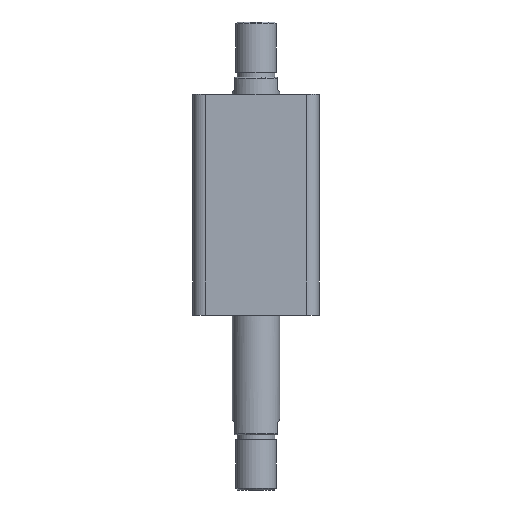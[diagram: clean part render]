
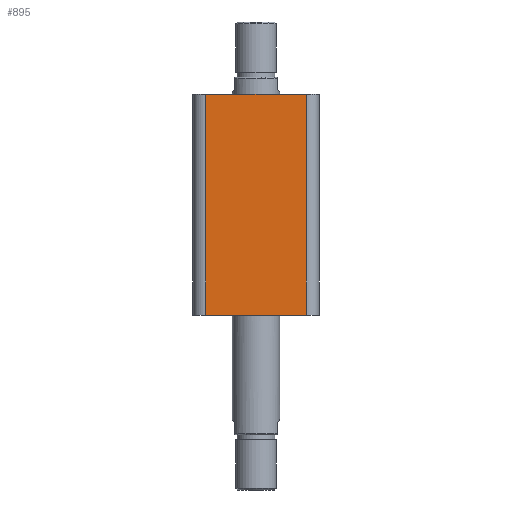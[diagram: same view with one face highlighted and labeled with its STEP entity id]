
A CAD part, front view. The second image highlights one B-rep face of the part: STEP entity #895.
In plain terms, the highlighted planar face has unit normal (0, -1, 0).
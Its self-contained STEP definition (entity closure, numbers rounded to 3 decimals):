
#62 = VERTEX_POINT ( 'NONE', #90 ) ;
#90 = CARTESIAN_POINT ( 'NONE',  ( 32., -40., 0. ) ) ;
#787 = EDGE_LOOP ( 'NONE', ( #2536, #2535, #2534, #2533 ) ) ;
#828 = FACE_OUTER_BOUND ( 'NONE', #787, .T. ) ;
#895 = ADVANCED_FACE ( 'NONE', ( #828 ), #1665, .F. ) ;
#1082 = CARTESIAN_POINT ( 'NONE',  ( -40., -40., 0. ) ) ;
#1092 = CARTESIAN_POINT ( 'NONE',  ( -40., -40., 140. ) ) ;
#1093 = DIRECTION ( 'NONE',  ( 1., 0., 0. ) ) ;
#1094 = CARTESIAN_POINT ( 'NONE',  ( -32., -40., 140. ) ) ;
#1095 = DIRECTION ( 'NONE',  ( 0., 0., -1. ) ) ;
#1096 = DIRECTION ( 'NONE',  ( 1., 0., 0. ) ) ;
#1097 = CARTESIAN_POINT ( 'NONE',  ( 32., -40., 140. ) ) ;
#1098 = DIRECTION ( 'NONE',  ( 0., 0., 1. ) ) ;
#1115 = CARTESIAN_POINT ( 'NONE',  ( -32., -40., 140. ) ) ;
#1128 = CARTESIAN_POINT ( 'NONE',  ( -32., -40., 0. ) ) ;
#1151 = CARTESIAN_POINT ( 'NONE',  ( 32., -40., 140. ) ) ;
#1292 = AXIS2_PLACEMENT_3D ( 'NONE', #1667, #1668, #1669 ) ;
#1665 = PLANE ( 'NONE',  #1292 ) ;
#1667 = CARTESIAN_POINT ( 'NONE',  ( -40., -40., 140. ) ) ;
#1668 = DIRECTION ( 'NONE',  ( 0., 1., 0. ) ) ;
#1669 = DIRECTION ( 'NONE',  ( 0., 0., 1. ) ) ;
#2416 = EDGE_CURVE ( 'NONE', #2859, #3443, #3321, .T. ) ;
#2417 = EDGE_CURVE ( 'NONE', #2859, #2865, #3323, .T. ) ;
#2418 = EDGE_CURVE ( 'NONE', #2865, #62, #3315, .T. ) ;
#2419 = EDGE_CURVE ( 'NONE', #62, #3443, #3327, .T. ) ;
#2533 = ORIENTED_EDGE ( 'NONE', *, *, #2419, .T. ) ;
#2534 = ORIENTED_EDGE ( 'NONE', *, *, #2418, .T. ) ;
#2535 = ORIENTED_EDGE ( 'NONE', *, *, #2417, .T. ) ;
#2536 = ORIENTED_EDGE ( 'NONE', *, *, #2416, .F. ) ;
#2859 = VERTEX_POINT ( 'NONE', #1115 ) ;
#2865 = VERTEX_POINT ( 'NONE', #1128 ) ;
#3315 = LINE ( 'NONE', #1082, #3328 ) ;
#3321 = LINE ( 'NONE', #1092, #3324 ) ;
#3323 = LINE ( 'NONE', #1094, #3326 ) ;
#3324 = VECTOR ( 'NONE', #1093, 1000. ) ;
#3326 = VECTOR ( 'NONE', #1095, 1000. ) ;
#3327 = LINE ( 'NONE', #1097, #3330 ) ;
#3328 = VECTOR ( 'NONE', #1096, 1000. ) ;
#3330 = VECTOR ( 'NONE', #1098, 1000. ) ;
#3443 = VERTEX_POINT ( 'NONE', #1151 ) ;
